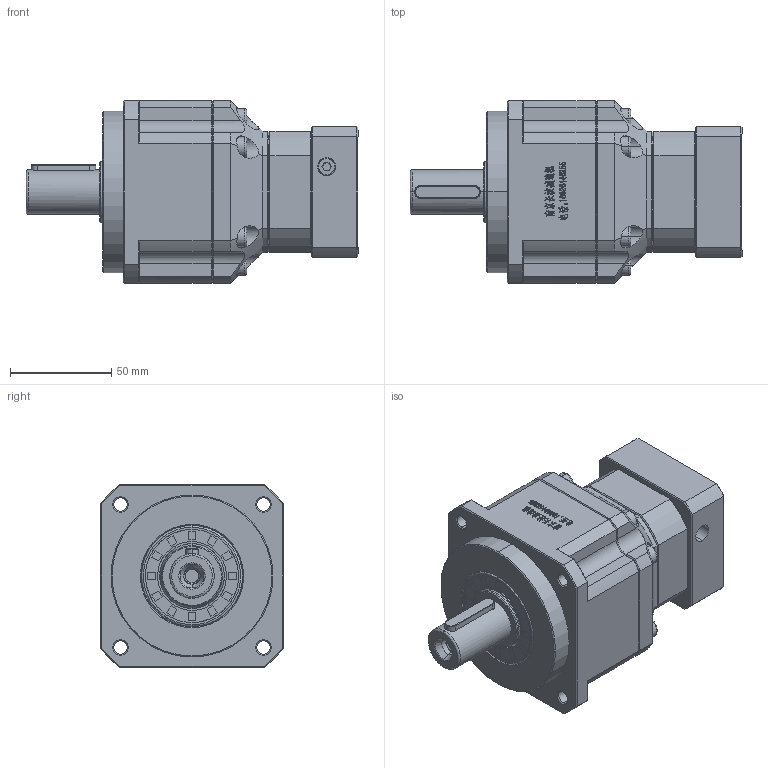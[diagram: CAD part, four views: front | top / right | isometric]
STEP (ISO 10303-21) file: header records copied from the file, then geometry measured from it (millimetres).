
FILE_DESCRIPTION (( 'STEP AP214' ), '1' );
FILE_NAME ('ZPB090-D22-L2-P1-11-60-75-M5.step', '2024-06-07T18:20:11', ( 'Windows 蚚誧' ), ( 'Organization' ), 'SwSTEP 2.0', 'SolidWorks 2016', '' );
FILE_SCHEMA (( 'AUTOMOTIVE_DESIGN' ));
Length unit declared in the file: millimetre
Products named in the file (1): ZPB090-D22-L2-P1-11-60-75-M5
Bounding box: 164 x 90 x 90 mm (x, y, z)
Surface area: 69790.1 mm2 (no closed solid volume)
Topology: 0 solids, 33 shells, 2108 faces, 5630 edges, 3590 vertices
Faces by surface type: plane 1079, bspline 381, cylinder 317, cone 307, torus 24
Entity records: 103916 total; most frequent: CARTESIAN_POINT 49835, ORIENTED_EDGE 11221, DIRECTION 8534, EDGE_CURVE 5630, VERTEX_POINT 3590, LINE 3468, VECTOR 3468, AXIS2_PLACEMENT_3D 2533
